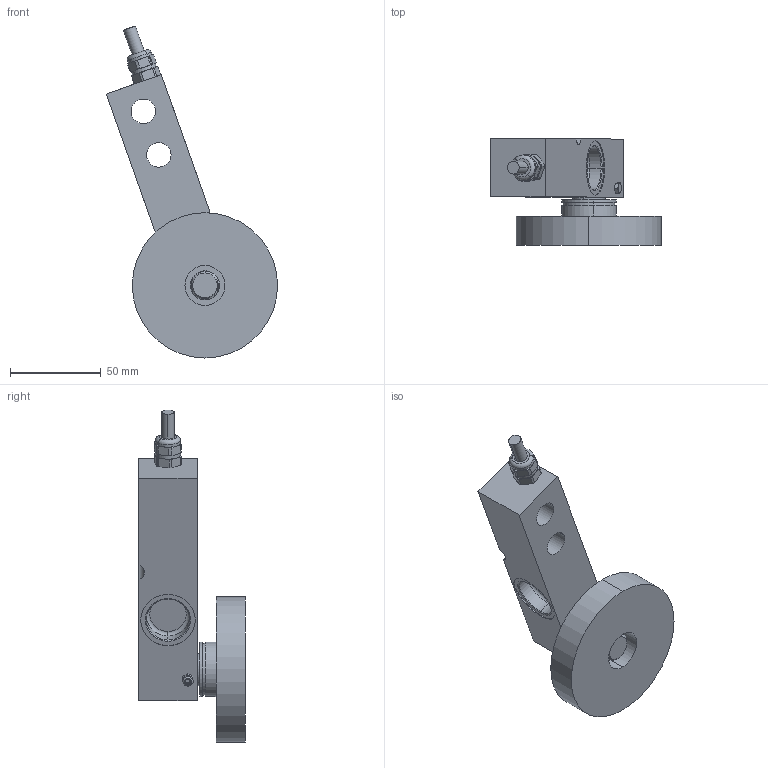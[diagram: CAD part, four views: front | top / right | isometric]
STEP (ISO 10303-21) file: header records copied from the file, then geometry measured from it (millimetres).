
FILE_DESCRIPTION (( 'STEP AP214' ), '1' );
FILE_NAME ('EBH-SFE-3510-2t.STEP', '2023-12-05T10:48:14', ( '' ), ( '' ), 'SwSTEP 2.0', 'SolidWorks 2019', '' );
FILE_SCHEMA (( 'AUTOMOTIVE_DESIGN' ));
Length unit declared in the file: millimetre
Products named in the file (15): hex bolt gradeb_din; EBH-SFE-3510-2t Gummi; 3510-2000kg-T; EBH-SFE-3510-2t Einlageplatte; EBH-SFE-3510-2t; EBH-SFE-3510-2t Krafteinleitungskugelkopf; EBH-SFE-3510-2t  O-Ring; prevailing torque nut style 1 insert_din_DIN EN ISO 7040 - M3 - N; prevailing torque nut style 1 insert_din; hex bolt gradeb_din_DIN EN 24015 - M3 x 30 x 12-N
Assembly tree (7 placements, depth 2):
  hex bolt gradeb_din
  EBH-SFE-3510-2t Gummi
  EBH-SFE-3510-2t
    EBH-SFE-3510-2t Gummi
    EBH-SFE-3510-2t Einlageplatte
    EBH-SFE-3510-2t Krafteinleitungskugelkopf
    EBH-SFE-3510-2t  O-Ring
    3510-2000kg-T
    hex bolt gradeb_din_DIN EN 24015 - M3 x 30 x 12-N
    prevailing torque nut style 1 insert_din_DIN EN ISO 7040 - M3 - N
  EBH-SFE-3510-2t Krafteinleitungskugelkopf
  EBH-SFE-3510-2t Einlageplatte
Bounding box: 94.24 x 58.45 x 182.79 mm (x, y, z)
Volume: 200320.9 mm3; surface area: 55777.3 mm2
Topology: 7 solids, 9 shells, 266 faces, 643 edges, 410 vertices
Faces by surface type: cylinder 124, plane 63, cone 49, torus 16, bspline 12, sphere 2
Entity records: 17930 total; most frequent: CARTESIAN_POINT 10503, ORIENTED_EDGE 1286, DIRECTION 1207, EDGE_CURVE 643, AXIS2_PLACEMENT_3D 501, VERTEX_POINT 410, EDGE_LOOP 303, ADVANCED_FACE 266
